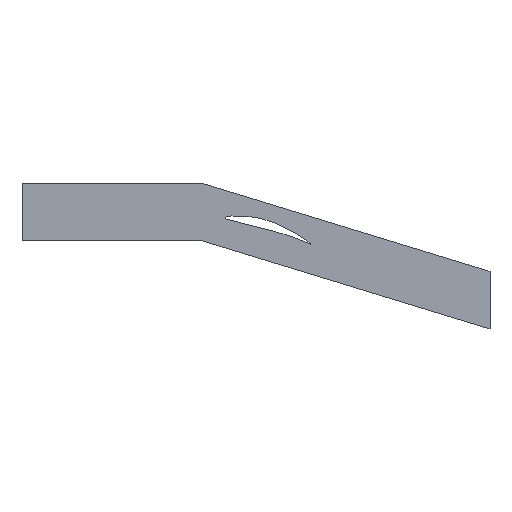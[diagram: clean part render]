
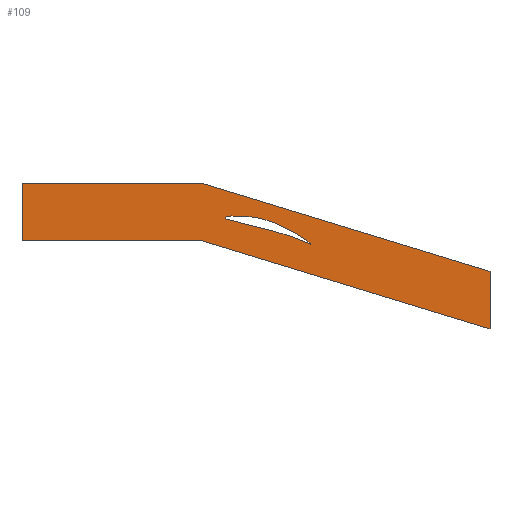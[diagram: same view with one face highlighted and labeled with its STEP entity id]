
A CAD part, top view. The second image highlights one B-rep face of the part: STEP entity #109.
In plain terms, the highlighted planar face has unit normal (0, 0, 1).
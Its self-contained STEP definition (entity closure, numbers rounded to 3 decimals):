
#1 = ORIENTED_EDGE ( 'NONE', *, *, #2, .T. ) ;
#2 = EDGE_CURVE ( 'NONE', #166, #37, #169, .T. ) ;
#3 = CARTESIAN_POINT ( 'NONE',  ( 615.137, 5.938, -10. ) ) ;
#4 = CARTESIAN_POINT ( 'NONE',  ( 623.9, 0.871, -10. ) ) ;
#5 = EDGE_CURVE ( 'NONE', #37, #31, #21, .T. ) ;
#6 = DIRECTION ( 'NONE',  ( 1., 0., 0. ) ) ;
#8 = CARTESIAN_POINT ( 'NONE',  ( 607.811, 9.06, -10. ) ) ;
#9 = CARTESIAN_POINT ( 'NONE',  ( 588.577, 10.125, -10. ) ) ;
#10 = B_SPLINE_CURVE_WITH_KNOTS ( 'NONE', 5,
 ( #26, #137, #72, #23, #121, #4, #162, #56, #3, #27, #8, #86, #84, #112, #96, #117, #152, #100, #122, #55, #69, #73, #98, #163, #97, #20, #30, #153 ),
 .UNSPECIFIED., .F., .F.,
 ( 6, 1, 1, 1, 1, 1, 1, 1, 1, 1, 1, 1, 1, 1, 1, 4, 4, 6 ),
 ( 0., 0.002, 0.012, 0.06, 0.149, 0.244, 0.34, 0.436, 0.531, 0.627, 0.722, 0.818, 0.908, 0.968, 0.996, 1., 1., 1. ),
 .UNSPECIFIED. ) ;
#11 = CARTESIAN_POINT ( 'NONE',  ( 613.033, 3.568, -10. ) ) ;
#12 = DIRECTION ( 'NONE',  ( 0.956, -0.292, 0. ) ) ;
#14 = FACE_BOUND ( 'NONE', #17, .T. ) ;
#15 = EDGE_CURVE ( 'NONE', #46, #76, #10, .T. ) ;
#16 = EDGE_CURVE ( 'NONE', #76, #46, #25, .T. ) ;
#17 = EDGE_LOOP ( 'NONE', ( #93, #61 ) ) ;
#19 = CARTESIAN_POINT ( 'NONE',  ( 594.399, 8.191, -10. ) ) ;
#20 = CARTESIAN_POINT ( 'NONE',  ( 588.577, 10.125, -10. ) ) ;
#21 = LINE ( 'NONE', #125, #116 ) ;
#22 = CARTESIAN_POINT ( 'NONE',  ( 588.577, 10.125, -10. ) ) ;
#23 = CARTESIAN_POINT ( 'NONE',  ( 626.503, -0.965, -10. ) ) ;
#25 = B_SPLINE_CURVE_WITH_KNOTS ( 'NONE', 5,
 ( #45, #58, #150, #95, #22, #138, #113, #114, #28, #19, #44, #123, #151, #167, #11, #119, #156, #103, #164, #32, #91, #77, #90 ),
 .UNSPECIFIED., .F., .F.,
 ( 6, 4, 1, 1, 1, 1, 1, 1, 1, 1, 1, 1, 1, 1, 1, 6 ),
 ( 0., 0., 0.004, 0.044, 0.133, 0.233, 0.333, 0.433, 0.533, 0.633, 0.733, 0.833, 0.93, 0.986, 0.998, 1. ),
 .UNSPECIFIED. ) ;
#26 = CARTESIAN_POINT ( 'NONE',  ( 626.829, -1.57, -10. ) ) ;
#27 = CARTESIAN_POINT ( 'NONE',  ( 611.548, 7.659, -10. ) ) ;
#28 = CARTESIAN_POINT ( 'NONE',  ( 591.805, 8.763, -10. ) ) ;
#30 = CARTESIAN_POINT ( 'NONE',  ( 588.577, 10.125, -10. ) ) ;
#31 = VERTEX_POINT ( 'NONE', #74 ) ;
#32 = CARTESIAN_POINT ( 'NONE',  ( 626.063, -1.508, -10. ) ) ;
#33 = DIRECTION ( 'NONE',  ( 0., 0., -1. ) ) ;
#37 = VERTEX_POINT ( 'NONE', #134 ) ;
#39 = EDGE_CURVE ( 'NONE', #31, #148, #155, .T. ) ;
#40 = EDGE_CURVE ( 'NONE', #148, #129, #52, .T. ) ;
#43 = CARTESIAN_POINT ( 'NONE',  ( 706.829, -13.712, -10. ) ) ;
#44 = CARTESIAN_POINT ( 'NONE',  ( 597.72, 7.411, -10. ) ) ;
#45 = CARTESIAN_POINT ( 'NONE',  ( 588.577, 10.125, -10. ) ) ;
#46 = VERTEX_POINT ( 'NONE', #62 ) ;
#47 = CARTESIAN_POINT ( 'NONE',  ( 577.971, 0., -10. ) ) ;
#48 = EDGE_CURVE ( 'NONE', #68, #166, #67, .T. ) ;
#49 = DIRECTION ( 'NONE',  ( -1., 0., 0. ) ) ;
#50 = PLANE ( 'NONE',  #172 ) ;
#51 = CARTESIAN_POINT ( 'NONE',  ( 706.829, -39.378, -10. ) ) ;
#52 = LINE ( 'NONE', #158, #85 ) ;
#55 = CARTESIAN_POINT ( 'NONE',  ( 588.577, 10.126, -10. ) ) ;
#56 = CARTESIAN_POINT ( 'NONE',  ( 618.595, 4.144, -10. ) ) ;
#57 = FACE_OUTER_BOUND ( 'NONE', #161, .T. ) ;
#58 = CARTESIAN_POINT ( 'NONE',  ( 588.577, 10.125, -10. ) ) ;
#60 = CARTESIAN_POINT ( 'NONE',  ( 497.971, 0., -10. ) ) ;
#61 = ORIENTED_EDGE ( 'NONE', *, *, #16, .F. ) ;
#62 = CARTESIAN_POINT ( 'NONE',  ( 626.829, -1.57, -10. ) ) ;
#65 = VECTOR ( 'NONE', #49, 1000. ) ;
#67 = LINE ( 'NONE', #79, #132 ) ;
#68 = VERTEX_POINT ( 'NONE', #47 ) ;
#69 = CARTESIAN_POINT ( 'NONE',  ( 588.577, 10.126, -10. ) ) ;
#71 = ORIENTED_EDGE ( 'NONE', *, *, #130, .T. ) ;
#72 = CARTESIAN_POINT ( 'NONE',  ( 626.89, -1.251, -10. ) ) ;
#73 = CARTESIAN_POINT ( 'NONE',  ( 588.577, 10.126, -10. ) ) ;
#74 = CARTESIAN_POINT ( 'NONE',  ( 577.971, 25.666, -10. ) ) ;
#76 = VERTEX_POINT ( 'NONE', #9 ) ;
#77 = CARTESIAN_POINT ( 'NONE',  ( 626.751, -1.665, -10. ) ) ;
#79 = CARTESIAN_POINT ( 'NONE',  ( 706.829, -39.378, -10. ) ) ;
#83 = CARTESIAN_POINT ( 'NONE',  ( 577.971, 25.666, -10. ) ) ;
#84 = CARTESIAN_POINT ( 'NONE',  ( 600.082, 10.764, -10. ) ) ;
#85 = VECTOR ( 'NONE', #141, 1000. ) ;
#86 = CARTESIAN_POINT ( 'NONE',  ( 603.953, 10.067, -10. ) ) ;
#87 = CARTESIAN_POINT ( 'NONE',  ( 0., 0., -10. ) ) ;
#88 = DIRECTION ( 'NONE',  ( -0.956, 0.292, 0. ) ) ;
#90 = CARTESIAN_POINT ( 'NONE',  ( 626.829, -1.57, -10. ) ) ;
#91 = CARTESIAN_POINT ( 'NONE',  ( 626.557, -1.77, -10. ) ) ;
#93 = ORIENTED_EDGE ( 'NONE', *, *, #15, .F. ) ;
#95 = CARTESIAN_POINT ( 'NONE',  ( 588.577, 10.125, -10. ) ) ;
#96 = CARTESIAN_POINT ( 'NONE',  ( 593.417, 11.146, -10. ) ) ;
#97 = CARTESIAN_POINT ( 'NONE',  ( 588.577, 10.125, -10. ) ) ;
#98 = CARTESIAN_POINT ( 'NONE',  ( 588.577, 10.126, -10. ) ) ;
#99 = CARTESIAN_POINT ( 'NONE',  ( 497.971, 25.666, -10. ) ) ;
#100 = CARTESIAN_POINT ( 'NONE',  ( 588.884, 10.531, -10. ) ) ;
#102 = LINE ( 'NONE', #165, #105 ) ;
#103 = CARTESIAN_POINT ( 'NONE',  ( 622.923, -0.03, -10. ) ) ;
#105 = VECTOR ( 'NONE', #6, 1000. ) ;
#107 = ORIENTED_EDGE ( 'NONE', *, *, #40, .T. ) ;
#108 = ORIENTED_EDGE ( 'NONE', *, *, #39, .T. ) ;
#109 = ADVANCED_FACE ( 'NONE', ( #57, #14 ), #50, .F. ) ;
#112 = CARTESIAN_POINT ( 'NONE',  ( 596.471, 11.108, -10. ) ) ;
#113 = CARTESIAN_POINT ( 'NONE',  ( 588.94, 9.629, -10. ) ) ;
#114 = CARTESIAN_POINT ( 'NONE',  ( 589.985, 9.289, -10. ) ) ;
#116 = VECTOR ( 'NONE', #88, 1000. ) ;
#117 = CARTESIAN_POINT ( 'NONE',  ( 591.13, 10.996, -10. ) ) ;
#118 = DIRECTION ( 'NONE',  ( -1., 0., 0. ) ) ;
#119 = CARTESIAN_POINT ( 'NONE',  ( 616.824, 2.364, -10. ) ) ;
#121 = CARTESIAN_POINT ( 'NONE',  ( 625.526, -0.266, -10. ) ) ;
#122 = CARTESIAN_POINT ( 'NONE',  ( 588.615, 10.285, -10. ) ) ;
#123 = CARTESIAN_POINT ( 'NONE',  ( 601.491, 6.526, -10. ) ) ;
#125 = CARTESIAN_POINT ( 'NONE',  ( 595.112, 20.428, -10. ) ) ;
#129 = VERTEX_POINT ( 'NONE', #60 ) ;
#130 = EDGE_CURVE ( 'NONE', #129, #68, #102, .T. ) ;
#132 = VECTOR ( 'NONE', #12, 1000. ) ;
#134 = CARTESIAN_POINT ( 'NONE',  ( 706.829, -13.712, -10. ) ) ;
#135 = DIRECTION ( 'NONE',  ( 0., 1., 0. ) ) ;
#136 = VECTOR ( 'NONE', #135, 1000. ) ;
#137 = CARTESIAN_POINT ( 'NONE',  ( 626.875, -1.464, -10. ) ) ;
#138 = CARTESIAN_POINT ( 'NONE',  ( 588.603, 9.952, -10. ) ) ;
#141 = DIRECTION ( 'NONE',  ( 0., -1., 0. ) ) ;
#147 = ORIENTED_EDGE ( 'NONE', *, *, #5, .T. ) ;
#148 = VERTEX_POINT ( 'NONE', #99 ) ;
#150 = CARTESIAN_POINT ( 'NONE',  ( 588.577, 10.125, -10. ) ) ;
#151 = CARTESIAN_POINT ( 'NONE',  ( 605.326, 5.536, -10. ) ) ;
#152 = CARTESIAN_POINT ( 'NONE',  ( 589.636, 10.735, -10. ) ) ;
#153 = CARTESIAN_POINT ( 'NONE',  ( 588.577, 10.125, -10. ) ) ;
#155 = LINE ( 'NONE', #83, #65 ) ;
#156 = CARTESIAN_POINT ( 'NONE',  ( 620.228, 1.106, -10. ) ) ;
#158 = CARTESIAN_POINT ( 'NONE',  ( 497.971, 25.666, -10. ) ) ;
#161 = EDGE_LOOP ( 'NONE', ( #71, #173, #1, #147, #108, #107 ) ) ;
#162 = CARTESIAN_POINT ( 'NONE',  ( 621.583, 2.359, -10. ) ) ;
#163 = CARTESIAN_POINT ( 'NONE',  ( 588.577, 10.125, -10. ) ) ;
#164 = CARTESIAN_POINT ( 'NONE',  ( 624.858, -0.932, -10. ) ) ;
#165 = CARTESIAN_POINT ( 'NONE',  ( 497.971, 0., -10. ) ) ;
#166 = VERTEX_POINT ( 'NONE', #51 ) ;
#167 = CARTESIAN_POINT ( 'NONE',  ( 609.157, 4.533, -10. ) ) ;
#169 = LINE ( 'NONE', #43, #136 ) ;
#172 = AXIS2_PLACEMENT_3D ( 'NONE', #87, #33, #118 ) ;
#173 = ORIENTED_EDGE ( 'NONE', *, *, #48, .T. ) ;
